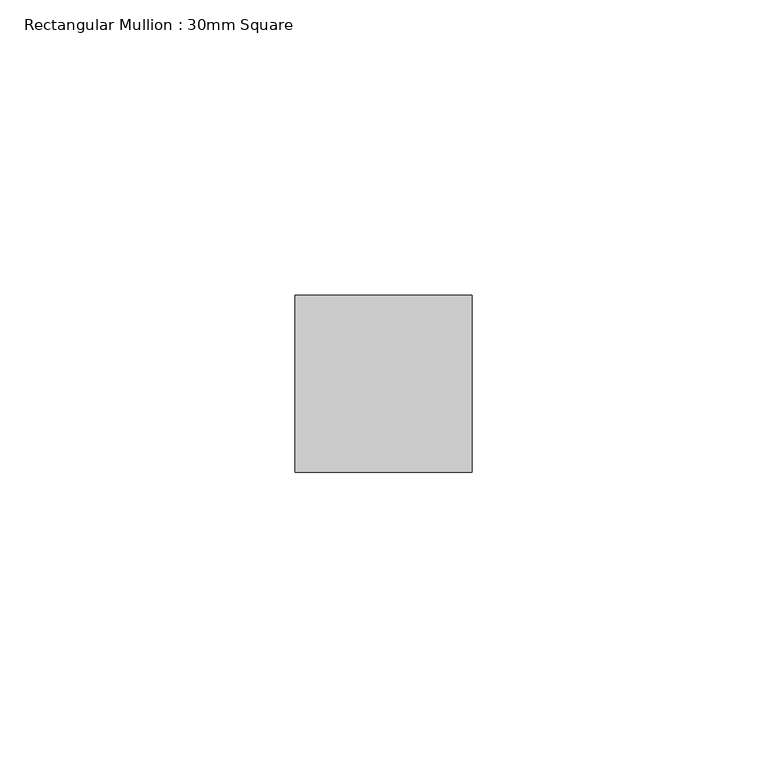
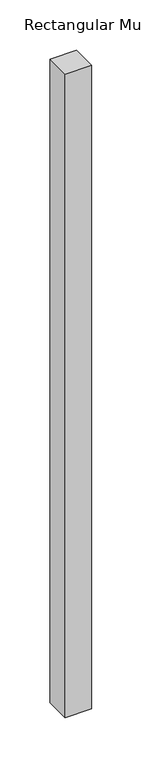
"""IFC4 building model written with IfcOpenShell, lengths in millimetres: member geometry, Rectangular Mullion : 30mm Square."""

from ifc_helpers import new_model, si_unit, frame, origin, place, context, project, spatial, polyline, outline, extrude, source, transform, mapped, element, save


def rectangular_mullion_30mm_square_eb920c15(model_context):
    return source(origin(), model_context, "Body", "SweptSolid", [
        extrude(outline(polyline([(0.0, 15.0), (0.0, -15.0), (-30.0, -15.0), (-30.0, 15.0), (0.0, 15.0)])), frame((0.0, 0.0, -780.0), z_axis=(0.0, 0.0, 1.0), x_axis=(1.0, 0.0, 0.0)), (0.0, 0.0, 1.0), 780.0),
    ])


if __name__ == "__main__":
    model = new_model("IFC4")
    model_context = context("Model", 3, world=origin())
    ifc_project = project(units=[si_unit("LENGTHUNIT", "METRE", prefix="MILLI")], contexts=[model_context])
    site = spatial("IfcSite", under=ifc_project)
    building = spatial("IfcBuilding", under=site)
    placement = place(None, origin())
    rectangular_mullion_30mm_square_shape = rectangular_mullion_30mm_square_eb920c15(model_context)
    element("IfcMember", 1, ObjectType="Rectangular Mullion : 30mm Square", at=placement, inside=building, context=model_context, shape_type="MappedRepresentation", body=[
        mapped(rectangular_mullion_30mm_square_shape, transform((0.0, 0.0, 0.0), x_axis=(1.0, 0.0, 0.0), y_axis=(0.0, 1.0, 0.0), z_axis=(0.0, 0.0, 1.0))),
    ])
    save(model, "model.ifc")
